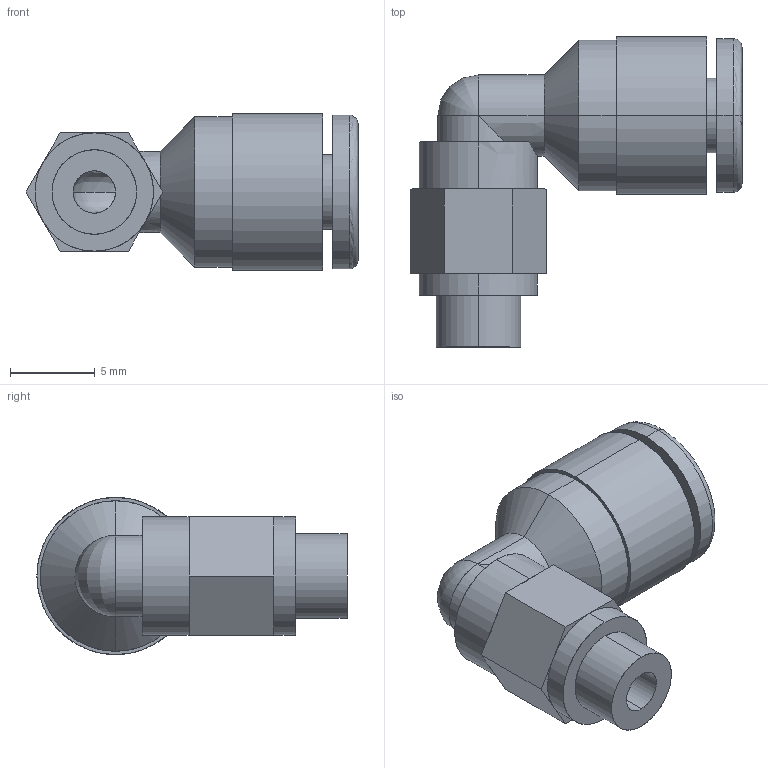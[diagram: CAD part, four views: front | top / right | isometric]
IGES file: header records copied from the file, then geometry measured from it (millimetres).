
Start section: SolidWorks IGES file using analytic representation for surfaces
Global section: file name: \\PSSILO\catalogs\SMCDatabase\KJ3064\cache\KJKJL040820212382468.igs; native system: SolidWorks 2008; preprocessor: SolidWorks 2008; author: partstream; date: 080820.212319; units: millimetre
Bounding box: 19.64 x 18.35 x 9.3 mm (x, y, z)
Surface area: 1163.4 mm2 (no closed solid volume)
Topology: 0 solids, 0 shells, 60 faces, 786 edges, 785 vertices
Faces by surface type: bspline 32, revolution 28
